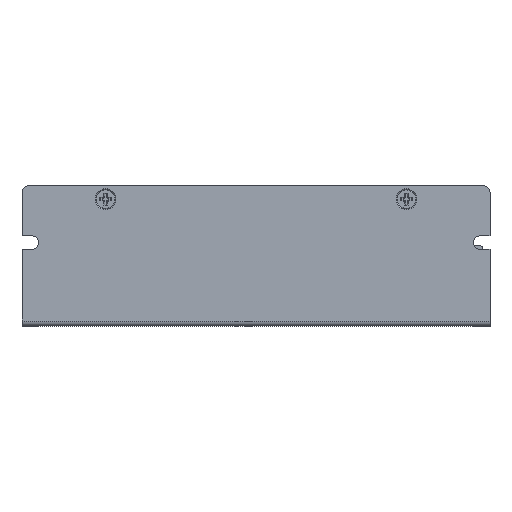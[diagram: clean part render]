
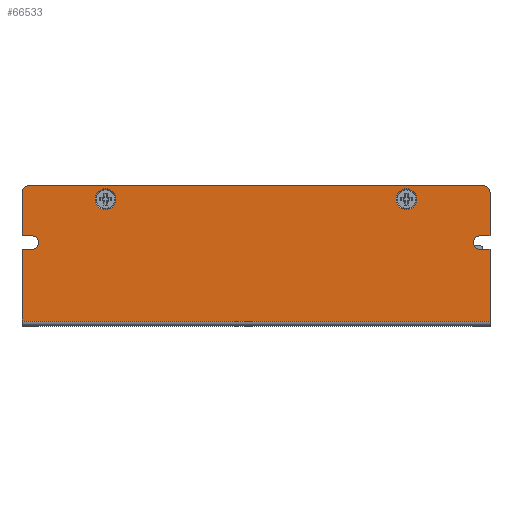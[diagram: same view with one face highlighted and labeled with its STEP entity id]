
A CAD part, front view. The second image highlights one B-rep face of the part: STEP entity #66533.
In plain terms, the highlighted planar face has unit normal (0, -1, 0).
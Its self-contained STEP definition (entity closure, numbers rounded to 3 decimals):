
#9903=DIRECTION('',(1.,0.,0.));
#9904=VECTOR('',#9903,140.);
#9905=CARTESIAN_POINT('',(-70.,-35.,1.55));
#9906=LINE('',#9905,#9904);
#9911=CARTESIAN_POINT('',(-68.,-35.,40.));
#9912=DIRECTION('',(0.,1.,0.));
#9913=DIRECTION('',(-1.,0.,0.));
#9914=AXIS2_PLACEMENT_3D('',#9911,#9912,#9913);
#9916=DIRECTION('',(1.,0.,0.));
#9917=VECTOR('',#9916,136.);
#9918=CARTESIAN_POINT('',(-68.,-35.,42.));
#9919=LINE('',#9918,#9917);
#9920=CARTESIAN_POINT('',(68.,-35.,40.));
#9921=DIRECTION('',(0.,1.,0.));
#9922=DIRECTION('',(0.,0.,1.));
#9923=AXIS2_PLACEMENT_3D('',#9920,#9921,#9922);
#9925=DIRECTION('',(0.,0.,-1.));
#9926=VECTOR('',#9925,13.);
#9927=CARTESIAN_POINT('',(70.,-35.,40.));
#9928=LINE('',#9927,#9926);
#9929=CARTESIAN_POINT('',(67.,-35.,25.));
#9930=DIRECTION('',(0.,-1.,0.));
#9931=DIRECTION('',(0.,0.,1.));
#9932=AXIS2_PLACEMENT_3D('',#9929,#9930,#9931);
#9934=DIRECTION('',(1.,0.,0.));
#9935=VECTOR('',#9934,3.);
#9936=CARTESIAN_POINT('',(67.,-35.,23.));
#9937=LINE('',#9936,#9935);
#9938=DIRECTION('',(0.,0.,-1.));
#9939=VECTOR('',#9938,21.45);
#9940=CARTESIAN_POINT('',(70.,-35.,23.));
#9941=LINE('',#9940,#9939);
#9942=DIRECTION('',(0.,0.,1.));
#9943=VECTOR('',#9942,21.45);
#9944=CARTESIAN_POINT('',(-70.,-35.,1.55));
#9945=LINE('',#9944,#9943);
#9946=CARTESIAN_POINT('',(-67.,-35.,25.));
#9947=DIRECTION('',(0.,-1.,0.));
#9948=DIRECTION('',(0.,0.,-1.));
#9949=AXIS2_PLACEMENT_3D('',#9946,#9947,#9948);
#9951=DIRECTION('',(-1.,0.,0.));
#9952=VECTOR('',#9951,3.);
#9953=CARTESIAN_POINT('',(-67.,-35.,27.));
#9954=LINE('',#9953,#9952);
#9955=DIRECTION('',(0.,0.,1.));
#9956=VECTOR('',#9955,13.);
#9957=CARTESIAN_POINT('',(-70.,-35.,27.));
#9958=LINE('',#9957,#9956);
#9959=CARTESIAN_POINT('',(45.,-35.,38.));
#9960=DIRECTION('',(0.,-1.,0.));
#9961=DIRECTION('',(1.,0.,0.));
#9962=AXIS2_PLACEMENT_3D('',#9959,#9960,#9961);
#9964=CARTESIAN_POINT('',(45.,-35.,38.));
#9965=DIRECTION('',(0.,-1.,0.));
#9966=DIRECTION('',(-1.,0.,0.));
#9967=AXIS2_PLACEMENT_3D('',#9964,#9965,#9966);
#9969=CARTESIAN_POINT('',(-45.,-35.,38.));
#9970=DIRECTION('',(0.,-1.,0.));
#9971=DIRECTION('',(1.,0.,0.));
#9972=AXIS2_PLACEMENT_3D('',#9969,#9970,#9971);
#9974=CARTESIAN_POINT('',(-45.,-35.,38.));
#9975=DIRECTION('',(0.,-1.,0.));
#9976=DIRECTION('',(-1.,0.,0.));
#9977=AXIS2_PLACEMENT_3D('',#9974,#9975,#9976);
#10007=DIRECTION('',(-1.,0.,0.));
#10008=VECTOR('',#10007,3.);
#10009=CARTESIAN_POINT('',(-67.,-35.,23.));
#10010=LINE('',#10009,#10008);
#10117=DIRECTION('',(1.,0.,0.));
#10118=VECTOR('',#10117,3.);
#10119=CARTESIAN_POINT('',(67.,-35.,27.));
#10120=LINE('',#10119,#10118);
#44373=CARTESIAN_POINT('',(-70.,-35.,40.));
#44374=CARTESIAN_POINT('',(-68.,-35.,42.));
#44375=VERTEX_POINT('',#44373);
#44376=VERTEX_POINT('',#44374);
#44377=CARTESIAN_POINT('',(68.,-35.,42.));
#44378=VERTEX_POINT('',#44377);
#44379=CARTESIAN_POINT('',(70.,-35.,40.));
#44380=VERTEX_POINT('',#44379);
#44381=CARTESIAN_POINT('',(70.,-35.,27.));
#44382=VERTEX_POINT('',#44381);
#44383=CARTESIAN_POINT('',(67.,-35.,27.));
#44384=VERTEX_POINT('',#44383);
#44385=CARTESIAN_POINT('',(67.,-35.,23.));
#44386=VERTEX_POINT('',#44385);
#44387=CARTESIAN_POINT('',(70.,-35.,23.));
#44388=VERTEX_POINT('',#44387);
#44389=CARTESIAN_POINT('',(70.,-35.,1.55));
#44390=VERTEX_POINT('',#44389);
#44391=CARTESIAN_POINT('',(-70.,-35.,1.55));
#44392=VERTEX_POINT('',#44391);
#44393=CARTESIAN_POINT('',(-70.,-35.,23.));
#44394=VERTEX_POINT('',#44393);
#44395=CARTESIAN_POINT('',(-67.,-35.,23.));
#44396=VERTEX_POINT('',#44395);
#44397=CARTESIAN_POINT('',(-67.,-35.,27.));
#44398=VERTEX_POINT('',#44397);
#44399=CARTESIAN_POINT('',(-70.,-35.,27.));
#44400=VERTEX_POINT('',#44399);
#48255=CARTESIAN_POINT('',(41.9,-35.,38.));
#48256=VERTEX_POINT('',#48255);
#48257=CARTESIAN_POINT('',(48.1,-35.,38.));
#48258=VERTEX_POINT('',#48257);
#48337=CARTESIAN_POINT('',(-48.1,-35.,38.));
#48338=VERTEX_POINT('',#48337);
#48340=CARTESIAN_POINT('',(-41.9,-35.,38.));
#48342=VERTEX_POINT('',#48340);
#66487=CARTESIAN_POINT('',(70.,-35.,0.));
#66488=DIRECTION('',(0.,-1.,0.));
#66489=DIRECTION('',(1.,0.,0.));
#66490=AXIS2_PLACEMENT_3D('',#66487,#66488,#66489);
#66491=PLANE('',#66490);
#66493=ORIENTED_EDGE('',*,*,#66492,.T.);
#66495=ORIENTED_EDGE('',*,*,#66494,.T.);
#66497=ORIENTED_EDGE('',*,*,#66496,.T.);
#66499=ORIENTED_EDGE('',*,*,#66498,.T.);
#66501=ORIENTED_EDGE('',*,*,#66500,.F.);
#66503=ORIENTED_EDGE('',*,*,#66502,.T.);
#66505=ORIENTED_EDGE('',*,*,#66504,.T.);
#66507=ORIENTED_EDGE('',*,*,#66506,.T.);
#66508=ORIENTED_EDGE('',*,*,#66471,.F.);
#66510=ORIENTED_EDGE('',*,*,#66509,.T.);
#66512=ORIENTED_EDGE('',*,*,#66511,.F.);
#66514=ORIENTED_EDGE('',*,*,#66513,.T.);
#66516=ORIENTED_EDGE('',*,*,#66515,.T.);
#66518=ORIENTED_EDGE('',*,*,#66517,.T.);
#66519=EDGE_LOOP('',(#66493,#66495,#66497,#66499,#66501,#66503,#66505,#66507,
#66508,#66510,#66512,#66514,#66516,#66518));
#66520=FACE_OUTER_BOUND('',#66519,.F.);
#66522=ORIENTED_EDGE('',*,*,#66521,.T.);
#66524=ORIENTED_EDGE('',*,*,#66523,.T.);
#66525=EDGE_LOOP('',(#66522,#66524));
#66526=FACE_BOUND('',#66525,.F.);
#66528=ORIENTED_EDGE('',*,*,#66527,.T.);
#66530=ORIENTED_EDGE('',*,*,#66529,.T.);
#66531=EDGE_LOOP('',(#66528,#66530));
#66532=FACE_BOUND('',#66531,.F.);
#9915=CIRCLE('',#9914,2.);
#9924=CIRCLE('',#9923,2.);
#9933=CIRCLE('',#9932,2.);
#9950=CIRCLE('',#9949,2.);
#9963=CIRCLE('',#9962,3.1);
#9968=CIRCLE('',#9967,3.1);
#9973=CIRCLE('',#9972,3.1);
#9978=CIRCLE('',#9977,3.1);
#66471=EDGE_CURVE('',#44392,#44390,#9906,.T.);
#66492=EDGE_CURVE('',#44375,#44376,#9915,.T.);
#66494=EDGE_CURVE('',#44376,#44378,#9919,.T.);
#66496=EDGE_CURVE('',#44378,#44380,#9924,.T.);
#66498=EDGE_CURVE('',#44380,#44382,#9928,.T.);
#66500=EDGE_CURVE('',#44384,#44382,#10120,.T.);
#66502=EDGE_CURVE('',#44384,#44386,#9933,.T.);
#66504=EDGE_CURVE('',#44386,#44388,#9937,.T.);
#66506=EDGE_CURVE('',#44388,#44390,#9941,.T.);
#66509=EDGE_CURVE('',#44392,#44394,#9945,.T.);
#66511=EDGE_CURVE('',#44396,#44394,#10010,.T.);
#66513=EDGE_CURVE('',#44396,#44398,#9950,.T.);
#66515=EDGE_CURVE('',#44398,#44400,#9954,.T.);
#66517=EDGE_CURVE('',#44400,#44375,#9958,.T.);
#66521=EDGE_CURVE('',#48258,#48256,#9963,.T.);
#66523=EDGE_CURVE('',#48256,#48258,#9968,.T.);
#66527=EDGE_CURVE('',#48342,#48338,#9973,.T.);
#66529=EDGE_CURVE('',#48338,#48342,#9978,.T.);
#66533=ADVANCED_FACE('',(#66520,#66526,#66532),#66491,.T.);
